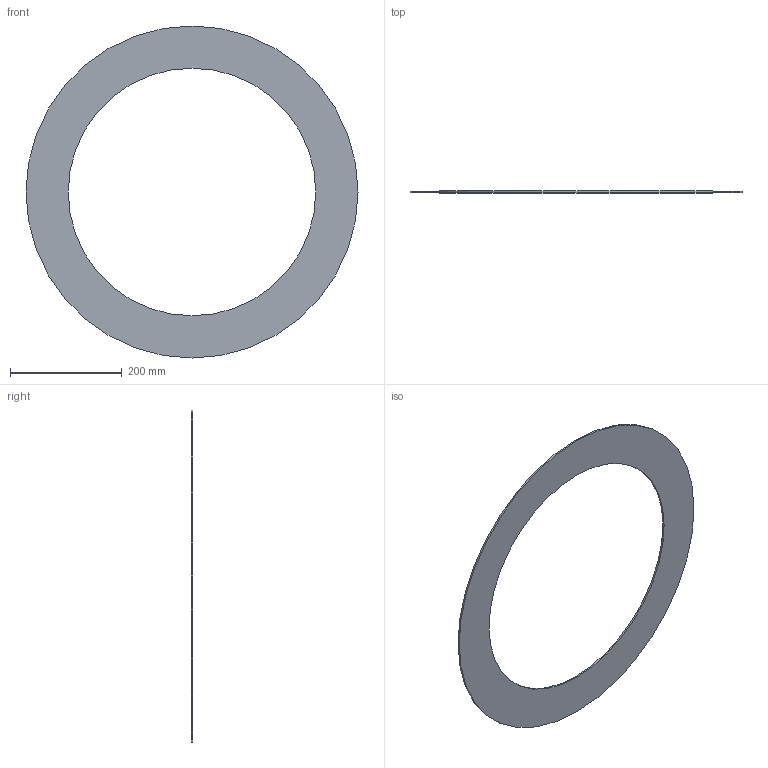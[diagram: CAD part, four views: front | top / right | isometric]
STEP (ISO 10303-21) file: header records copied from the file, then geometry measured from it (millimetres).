
FILE_DESCRIPTION(/* description */ ('Unknown'),/* implementation_level */ '2;1');
FILE_NAME(/* name */ 'GUA.500B',/* time_stamp */ '2021-04-01T14:25:02+02:00',/* author */ ('Unknown'),/* organization */ ('Unknown'),/* preprocessor_version */ 'ST-DEVELOPER v16.7',/* originating_system */ 'Solid Edge',/* authorisation */ 'Unknown');
FILE_SCHEMA (('AUTOMOTIVE_DESIGN {1 0 10303 214 3 1 1}'));
Length unit declared in the file: millimetre
Products named in the file (1): GUA.500B
Bounding box: 594 x 3 x 594 mm (x, y, z)
Volume: 368949.4 mm3; surface area: 255739.8 mm2
Topology: 1 solids, 1 shells, 4 faces, 6 edges, 4 vertices
Faces by surface type: cylinder 2, plane 2
Full cylindrical faces by diameter (mm): 443 x1, 594 x1
Entity records: 118 total; most frequent: DIRECTION 18, CARTESIAN_POINT 13, AXIS2_PLACEMENT_3D 9, ORIENTED_EDGE 8, EDGE_LOOP 8, FACE_BOUND 8, EDGE_CURVE 4, VERTEX_POINT 4
